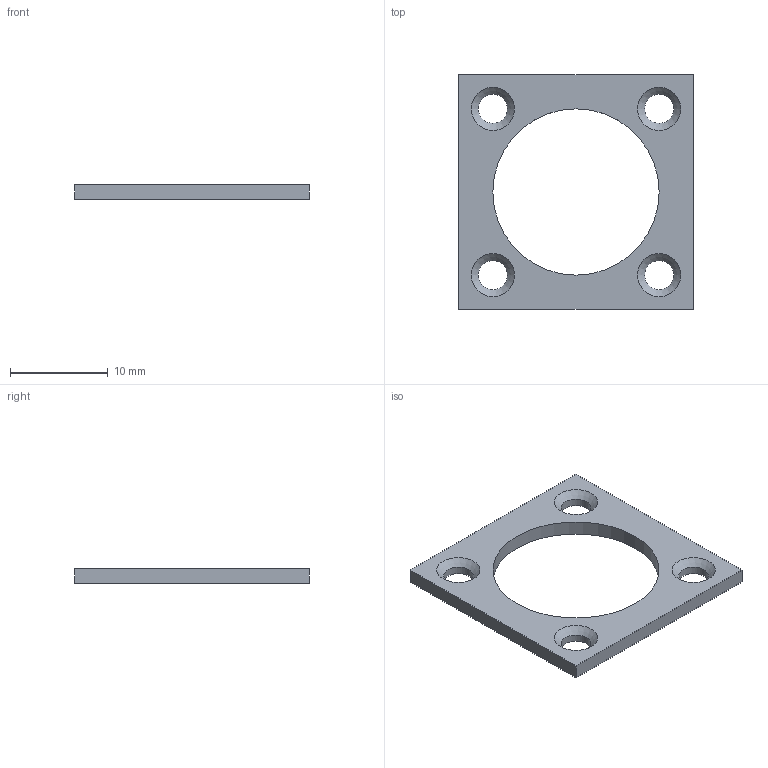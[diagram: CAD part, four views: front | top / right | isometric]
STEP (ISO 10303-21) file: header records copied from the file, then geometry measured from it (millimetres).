
FILE_DESCRIPTION(('FreeCAD Model'),'2;1');
FILE_NAME('Open CASCADE Shape Model','2026-08-19T11:13:14',('Author'),( ''),'Open CASCADE STEP processor 7.8','FreeCAD','Unknown');
FILE_SCHEMA(('AUTOMOTIVE_DESIGN { 1 0 10303 214 1 1 1 1 }'));
Length unit declared in the file: millimetre
Products named in the file (1): Body
Bounding box: 24 x 24 x 1.5 mm (x, y, z)
Volume: 470.4 mm3; surface area: 909.2 mm2
Topology: 1 solids, 1 shells, 15 faces, 35 edges, 22 vertices
Faces by surface type: plane 6, cylinder 5, cone 4
Full cylindrical faces by diameter (mm): 3 x4, 17 x1
Entity records: 473 total; most frequent: DIRECTION 81, CARTESIAN_POINT 73, ORIENTED_EDGE 70, EDGE_CURVE 35, AXIS2_PLACEMENT_3D 30, FACE_BOUND 25, EDGE_LOOP 25, VERTEX_POINT 22
